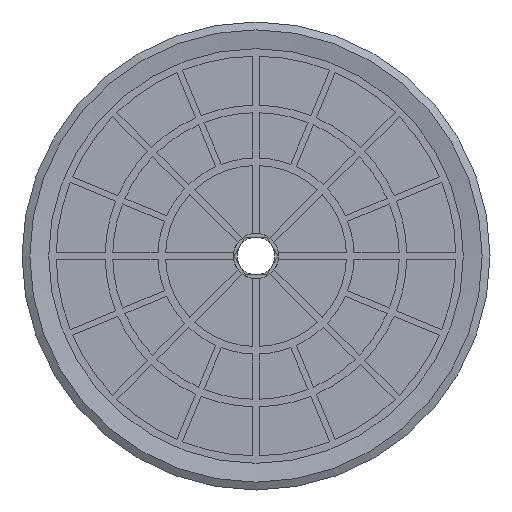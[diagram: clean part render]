
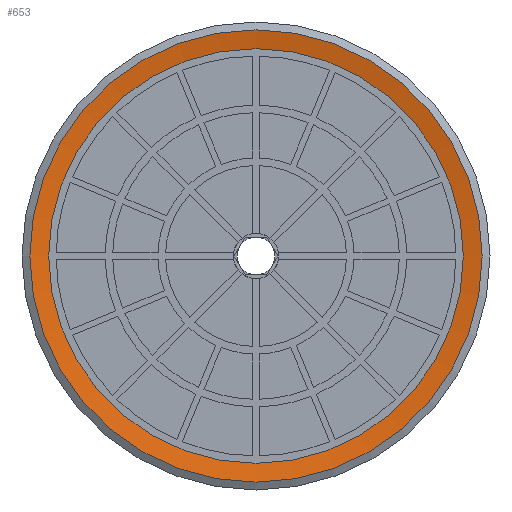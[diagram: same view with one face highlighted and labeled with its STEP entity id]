
A CAD part, front view. The second image highlights one B-rep face of the part: STEP entity #653.
In plain terms, the highlighted conical face has half-angle 80 degrees and reference radius 15 mm.
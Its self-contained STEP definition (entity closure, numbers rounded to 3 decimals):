
#653=ADVANCED_FACE('',(#1226,#1227),#1228,.F.);
#1226=FACE_BOUND('',#1982,.T.);
#1227=FACE_OUTER_BOUND('',#1983,.T.);
#1228=CONICAL_SURFACE('',#1984,15.0,1.396);
#1982=EDGE_LOOP('',(#3697));
#1983=EDGE_LOOP('',(#3698));
#1984=AXIS2_PLACEMENT_3D('',#3699,#3700,#3701);
#3697=ORIENTED_EDGE('',*,*,#5314,.T.);
#3698=ORIENTED_EDGE('',*,*,#5315,.F.);
#3699=CARTESIAN_POINT('',(0.0,0.,0.));
#3700=DIRECTION('',(0.0,0.,-1.0));
#3701=DIRECTION('',(0.0,1.0,0.));
#5314=EDGE_CURVE('',#6441,#6441,#6442,.T.);
#5315=EDGE_CURVE('',#6443,#6443,#6444,.T.);
#6441=VERTEX_POINT('',#8347);
#6442=CIRCLE('',#8348,13.75);
#6443=VERTEX_POINT('',#8349);
#6444=CIRCLE('',#8350,15.0);
#8347=CARTESIAN_POINT('',(0.0,-13.75,0.22));
#8348=AXIS2_PLACEMENT_3D('',#9643,#9644,#9645);
#8349=CARTESIAN_POINT('',(0.0,-15.0,0.));
#8350=AXIS2_PLACEMENT_3D('',#9646,#9647,#9648);
#9643=CARTESIAN_POINT('',(0.0,0.,0.22));
#9644=DIRECTION('',(0.0,0.,1.0));
#9645=DIRECTION('',(0.0,-1.0,0.));
#9646=CARTESIAN_POINT('',(0.0,0.,0.));
#9647=DIRECTION('',(0.0,0.,1.0));
#9648=DIRECTION('',(0.0,-1.0,0.));
